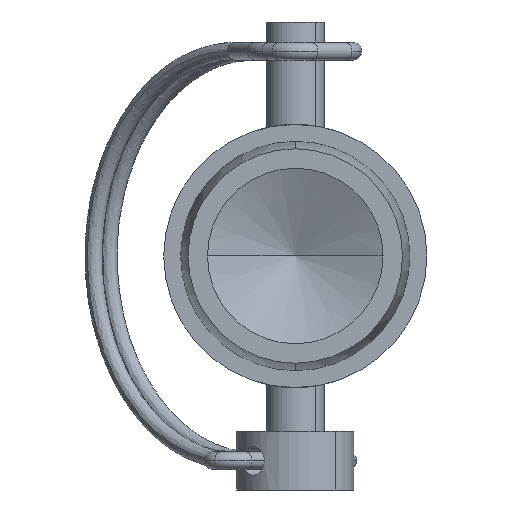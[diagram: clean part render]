
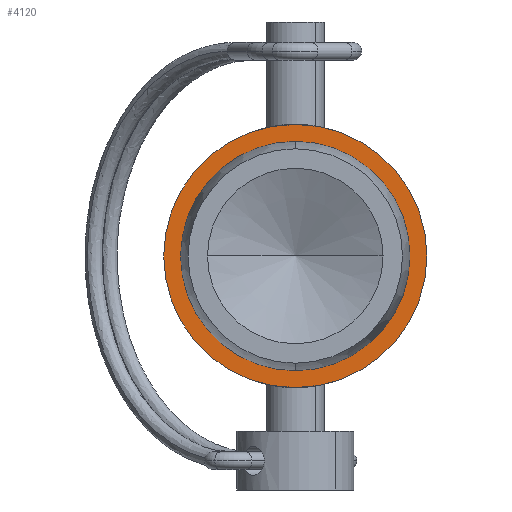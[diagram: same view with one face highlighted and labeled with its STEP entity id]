
A CAD part, left-side view. The second image highlights one B-rep face of the part: STEP entity #4120.
In plain terms, the highlighted planar face has unit normal (-1, 0, 0).
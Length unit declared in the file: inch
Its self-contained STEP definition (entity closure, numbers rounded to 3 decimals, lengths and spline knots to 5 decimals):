
#191 = DIRECTION ( 'NONE',  ( 0., 0., 1. ) ) ;
#195 = DIRECTION ( 'NONE',  ( -1., 0., 0. ) ) ;
#203 = CARTESIAN_POINT ( 'NONE',  ( -0.25, 0., -0.49 ) ) ;
#244 = DIRECTION ( 'NONE',  ( -1., 0., 0. ) ) ;
#250 = CARTESIAN_POINT ( 'NONE',  ( -0.25, 0., 0. ) ) ;
#428 = ORIENTED_EDGE ( 'NONE', *, *, #1607, .F. ) ;
#532 = CARTESIAN_POINT ( 'NONE',  ( -0.25, 0., 0.49 ) ) ;
#695 = CARTESIAN_POINT ( 'NONE',  ( -0.25, 0., -0.5625 ) ) ;
#734 = CIRCLE ( 'NONE', #5102, 0.5625 ) ;
#960 = EDGE_CURVE ( 'NONE', #2974, #4985, #1507, .T. ) ;
#1415 = VERTEX_POINT ( 'NONE', #532 ) ;
#1507 = CIRCLE ( 'NONE', #3609, 0.5625 ) ;
#1607 = EDGE_CURVE ( 'NONE', #4839, #1415, #4654, .T. ) ;
#1676 = EDGE_CURVE ( 'NONE', #4985, #2974, #734, .T. ) ;
#1746 = DIRECTION ( 'NONE',  ( 0., 0., 1. ) ) ;
#1757 = DIRECTION ( 'NONE',  ( -1., 0., 0. ) ) ;
#1758 = CARTESIAN_POINT ( 'NONE',  ( -0.25, 0., -0.49 ) ) ;
#1764 = CARTESIAN_POINT ( 'NONE',  ( -0.25, 0., 0. ) ) ;
#2286 = DIRECTION ( 'NONE',  ( 0., 0., 1. ) ) ;
#2296 = DIRECTION ( 'NONE',  ( -1., 0., 0. ) ) ;
#2304 = CARTESIAN_POINT ( 'NONE',  ( -0.25, 0., 0. ) ) ;
#2373 = EDGE_CURVE ( 'NONE', #1415, #4839, #4652, .T. ) ;
#2882 = AXIS2_PLACEMENT_3D ( 'NONE', #203, #195, #191 ) ;
#2888 = PLANE ( 'NONE',  #2882 ) ;
#2974 = VERTEX_POINT ( 'NONE', #4865 ) ;
#3012 = AXIS2_PLACEMENT_3D ( 'NONE', #1764, #1757, #1746 ) ;
#3191 = DIRECTION ( 'NONE',  ( 0., 0., 1. ) ) ;
#3328 = ORIENTED_EDGE ( 'NONE', *, *, #960, .T. ) ;
#3502 = FACE_OUTER_BOUND ( 'NONE', #3880, .T. ) ;
#3583 = AXIS2_PLACEMENT_3D ( 'NONE', #250, #244, #3191 ) ;
#3609 = AXIS2_PLACEMENT_3D ( 'NONE', #2304, #2296, #2286 ) ;
#3627 = FACE_BOUND ( 'NONE', #4374, .T. ) ;
#3880 = EDGE_LOOP ( 'NONE', ( #3328, #4118 ) ) ;
#3935 = ORIENTED_EDGE ( 'NONE', *, *, #2373, .F. ) ;
#4118 = ORIENTED_EDGE ( 'NONE', *, *, #1676, .T. ) ;
#4120 = ADVANCED_FACE ( 'NONE', ( #3627, #3502 ), #2888, .T. ) ;
#4374 = EDGE_LOOP ( 'NONE', ( #3935, #428 ) ) ;
#4652 = CIRCLE ( 'NONE', #3012, 0.49 ) ;
#4654 = CIRCLE ( 'NONE', #3583, 0.49 ) ;
#4839 = VERTEX_POINT ( 'NONE', #1758 ) ;
#4865 = CARTESIAN_POINT ( 'NONE',  ( -0.25, 0., 0.5625 ) ) ;
#4866 = DIRECTION ( 'NONE',  ( 0., 0., 1. ) ) ;
#4871 = DIRECTION ( 'NONE',  ( -1., 0., 0. ) ) ;
#4873 = CARTESIAN_POINT ( 'NONE',  ( -0.25, 0., 0. ) ) ;
#4985 = VERTEX_POINT ( 'NONE', #695 ) ;
#5102 = AXIS2_PLACEMENT_3D ( 'NONE', #4873, #4871, #4866 ) ;
